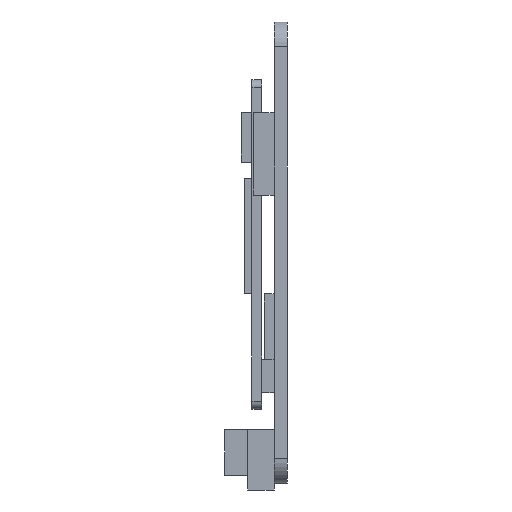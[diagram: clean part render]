
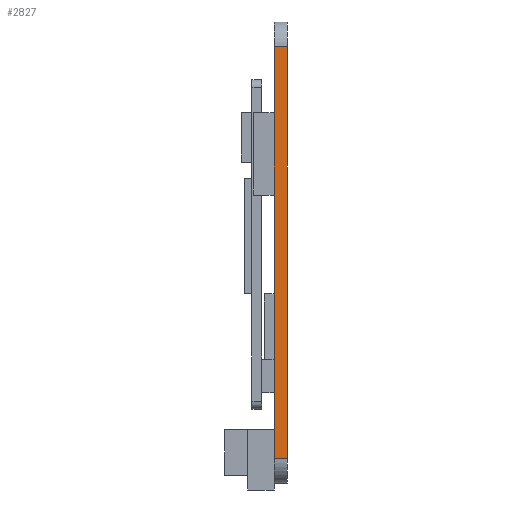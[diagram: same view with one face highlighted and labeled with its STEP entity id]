
A CAD part, left-side view. The second image highlights one B-rep face of the part: STEP entity #2827.
In plain terms, the highlighted planar face has unit normal (-1, 0, 0).
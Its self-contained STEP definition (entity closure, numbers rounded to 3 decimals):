
#1045 = PLANE('',#1046);
#1046 = AXIS2_PLACEMENT_3D('',#1047,#1048,#1049);
#1047 = CARTESIAN_POINT('',(-37.5,18.4,55.));
#1048 = DIRECTION('',(-0.,1.,0.));
#1049 = DIRECTION('',(0.,0.,1.));
#1656 = VERTEX_POINT('',#1657);
#1657 = CARTESIAN_POINT('',(-37.5,18.4,58.));
#1676 = CYLINDRICAL_SURFACE('',#1677,3.);
#1677 = AXIS2_PLACEMENT_3D('',#1678,#1679,#1680);
#1678 = CARTESIAN_POINT('',(-34.5,16.8,58.));
#1679 = DIRECTION('',(-0.,1.,0.));
#1680 = DIRECTION('',(-1.,-0.,0.));
#1688 = EDGE_CURVE('',#1656,#1689,#1691,.T.);
#1689 = VERTEX_POINT('',#1690);
#1690 = CARTESIAN_POINT('',(-37.5,18.4,108.));
#1691 = SURFACE_CURVE('',#1692,(#1696,#1703),.PCURVE_S1.);
#1692 = LINE('',#1693,#1694);
#1693 = CARTESIAN_POINT('',(-37.5,18.4,55.));
#1694 = VECTOR('',#1695,1.);
#1695 = DIRECTION('',(0.,0.,1.));
#1696 = PCURVE('',#1045,#1697);
#1697 = DEFINITIONAL_REPRESENTATION('',(#1698),#1702);
#1698 = LINE('',#1699,#1700);
#1699 = CARTESIAN_POINT('',(0.,0.));
#1700 = VECTOR('',#1701,1.);
#1701 = DIRECTION('',(1.,0.));
#1702 = ( GEOMETRIC_REPRESENTATION_CONTEXT(2) 
PARAMETRIC_REPRESENTATION_CONTEXT() REPRESENTATION_CONTEXT('2D SPACE',''
  ) );
#1703 = PCURVE('',#1704,#1709);
#1704 = PLANE('',#1705);
#1705 = AXIS2_PLACEMENT_3D('',#1706,#1707,#1708);
#1706 = CARTESIAN_POINT('',(-37.5,16.8,55.));
#1707 = DIRECTION('',(1.,0.,-0.));
#1708 = DIRECTION('',(0.,0.,1.));
#1709 = DEFINITIONAL_REPRESENTATION('',(#1710),#1714);
#1710 = LINE('',#1711,#1712);
#1711 = CARTESIAN_POINT('',(0.,-1.6));
#1712 = VECTOR('',#1713,1.);
#1713 = DIRECTION('',(1.,0.));
#1714 = ( GEOMETRIC_REPRESENTATION_CONTEXT(2) 
PARAMETRIC_REPRESENTATION_CONTEXT() REPRESENTATION_CONTEXT('2D SPACE',''
  ) );
#1733 = CYLINDRICAL_SURFACE('',#1734,3.);
#1734 = AXIS2_PLACEMENT_3D('',#1735,#1736,#1737);
#1735 = CARTESIAN_POINT('',(-34.5,16.8,108.));
#1736 = DIRECTION('',(-0.,1.,0.));
#1737 = DIRECTION('',(-1.,-0.,0.));
#2610 = PLANE('',#2611);
#2611 = AXIS2_PLACEMENT_3D('',#2612,#2613,#2614);
#2612 = CARTESIAN_POINT('',(-37.5,16.8,55.));
#2613 = DIRECTION('',(-0.,1.,0.));
#2614 = DIRECTION('',(0.,0.,1.));
#2674 = VERTEX_POINT('',#2675);
#2675 = CARTESIAN_POINT('',(-37.5,16.8,58.));
#2703 = EDGE_CURVE('',#2674,#1656,#2704,.T.);
#2704 = SURFACE_CURVE('',#2705,(#2709,#2716),.PCURVE_S1.);
#2705 = LINE('',#2706,#2707);
#2706 = CARTESIAN_POINT('',(-37.5,16.8,58.));
#2707 = VECTOR('',#2708,1.);
#2708 = DIRECTION('',(-0.,1.,0.));
#2709 = PCURVE('',#1676,#2710);
#2710 = DEFINITIONAL_REPRESENTATION('',(#2711),#2715);
#2711 = LINE('',#2712,#2713);
#2712 = CARTESIAN_POINT('',(-0.,0.));
#2713 = VECTOR('',#2714,1.);
#2714 = DIRECTION('',(-0.,1.));
#2715 = ( GEOMETRIC_REPRESENTATION_CONTEXT(2) 
PARAMETRIC_REPRESENTATION_CONTEXT() REPRESENTATION_CONTEXT('2D SPACE',''
  ) );
#2716 = PCURVE('',#1704,#2717);
#2717 = DEFINITIONAL_REPRESENTATION('',(#2718),#2722);
#2718 = LINE('',#2719,#2720);
#2719 = CARTESIAN_POINT('',(3.,0.));
#2720 = VECTOR('',#2721,1.);
#2721 = DIRECTION('',(0.,-1.));
#2722 = ( GEOMETRIC_REPRESENTATION_CONTEXT(2) 
PARAMETRIC_REPRESENTATION_CONTEXT() REPRESENTATION_CONTEXT('2D SPACE',''
  ) );
#2827 = ADVANCED_FACE('',(#2828),#1704,.F.);
#2828 = FACE_BOUND('',#2829,.F.);
#2829 = EDGE_LOOP('',(#2830,#2853,#2854,#2855));
#2830 = ORIENTED_EDGE('',*,*,#2831,.F.);
#2831 = EDGE_CURVE('',#2674,#2832,#2834,.T.);
#2832 = VERTEX_POINT('',#2833);
#2833 = CARTESIAN_POINT('',(-37.5,16.8,108.));
#2834 = SURFACE_CURVE('',#2835,(#2839,#2846),.PCURVE_S1.);
#2835 = LINE('',#2836,#2837);
#2836 = CARTESIAN_POINT('',(-37.5,16.8,55.));
#2837 = VECTOR('',#2838,1.);
#2838 = DIRECTION('',(0.,0.,1.));
#2839 = PCURVE('',#1704,#2840);
#2840 = DEFINITIONAL_REPRESENTATION('',(#2841),#2845);
#2841 = LINE('',#2842,#2843);
#2842 = CARTESIAN_POINT('',(0.,0.));
#2843 = VECTOR('',#2844,1.);
#2844 = DIRECTION('',(1.,0.));
#2845 = ( GEOMETRIC_REPRESENTATION_CONTEXT(2) 
PARAMETRIC_REPRESENTATION_CONTEXT() REPRESENTATION_CONTEXT('2D SPACE',''
  ) );
#2846 = PCURVE('',#2610,#2847);
#2847 = DEFINITIONAL_REPRESENTATION('',(#2848),#2852);
#2848 = LINE('',#2849,#2850);
#2849 = CARTESIAN_POINT('',(0.,0.));
#2850 = VECTOR('',#2851,1.);
#2851 = DIRECTION('',(1.,0.));
#2852 = ( GEOMETRIC_REPRESENTATION_CONTEXT(2) 
PARAMETRIC_REPRESENTATION_CONTEXT() REPRESENTATION_CONTEXT('2D SPACE',''
  ) );
#2853 = ORIENTED_EDGE('',*,*,#2703,.T.);
#2854 = ORIENTED_EDGE('',*,*,#1688,.T.);
#2855 = ORIENTED_EDGE('',*,*,#2856,.F.);
#2856 = EDGE_CURVE('',#2832,#1689,#2857,.T.);
#2857 = SURFACE_CURVE('',#2858,(#2862,#2869),.PCURVE_S1.);
#2858 = LINE('',#2859,#2860);
#2859 = CARTESIAN_POINT('',(-37.5,16.8,108.));
#2860 = VECTOR('',#2861,1.);
#2861 = DIRECTION('',(-0.,1.,0.));
#2862 = PCURVE('',#1704,#2863);
#2863 = DEFINITIONAL_REPRESENTATION('',(#2864),#2868);
#2864 = LINE('',#2865,#2866);
#2865 = CARTESIAN_POINT('',(53.,0.));
#2866 = VECTOR('',#2867,1.);
#2867 = DIRECTION('',(0.,-1.));
#2868 = ( GEOMETRIC_REPRESENTATION_CONTEXT(2) 
PARAMETRIC_REPRESENTATION_CONTEXT() REPRESENTATION_CONTEXT('2D SPACE',''
  ) );
#2869 = PCURVE('',#1733,#2870);
#2870 = DEFINITIONAL_REPRESENTATION('',(#2871),#2875);
#2871 = LINE('',#2872,#2873);
#2872 = CARTESIAN_POINT('',(0.,0.));
#2873 = VECTOR('',#2874,1.);
#2874 = DIRECTION('',(0.,1.));
#2875 = ( GEOMETRIC_REPRESENTATION_CONTEXT(2) 
PARAMETRIC_REPRESENTATION_CONTEXT() REPRESENTATION_CONTEXT('2D SPACE',''
  ) );
